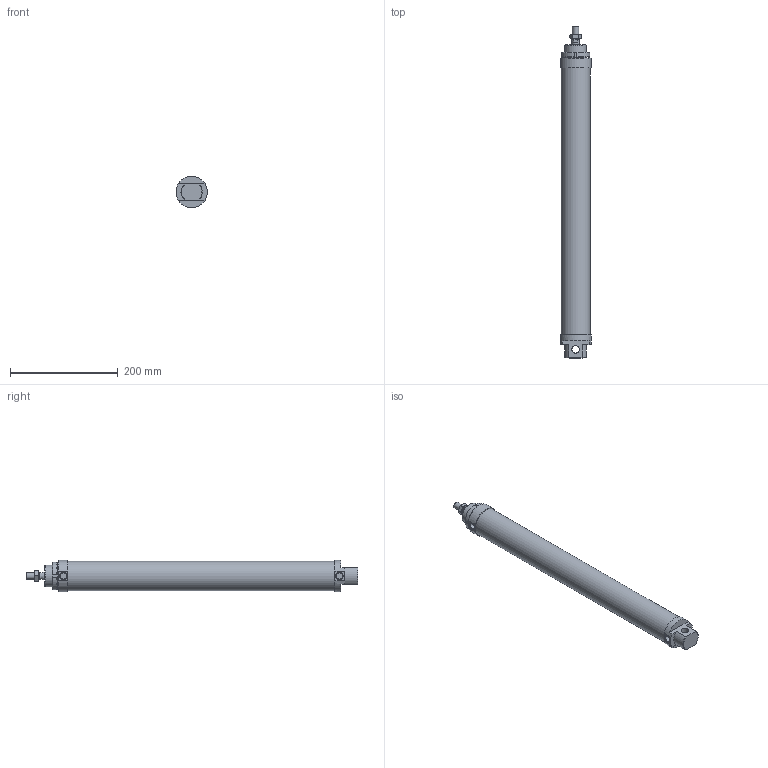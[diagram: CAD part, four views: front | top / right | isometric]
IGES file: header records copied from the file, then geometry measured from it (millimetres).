
Global section: file name: No Iges File Name specified; native system: AutoDesk Inventor R6.0; preprocessor: AutoDesk Inventor Iges Exporter R6.0; author: No Author specified; organization: No Organization specified; date: 20030402.145114; units: millimetre
Bounding box: 56.51 x 617 x 58 mm (x, y, z)
Surface area: 154929.8 mm2 (no closed solid volume)
Topology: 0 solids, 0 shells, 94 faces, 413 edges, 395 vertices
Faces by surface type: plane 44, revolution 39, bspline 11
